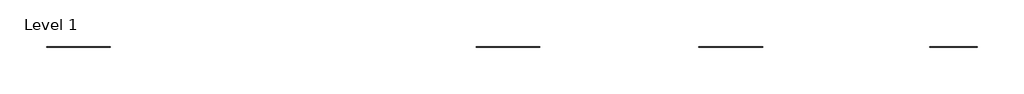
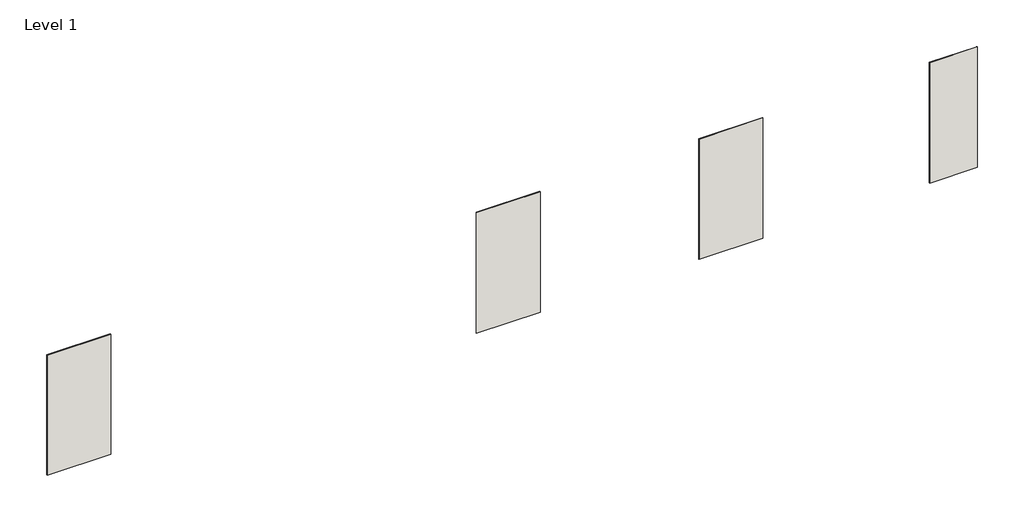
# One storey: 4 walls.
"""IFC4 building model written with IfcOpenShell, lengths in millimetres."""

from ifc_helpers import new_model, si_unit, frame, origin, place, context, project, spatial, polyline, outline, extrude, element, save

model = new_model("IFC4")

# Units and contexts
model_context = context("Model", 3, world=origin())
ifc_project = project(units=[si_unit("LENGTHUNIT", "METRE", prefix="MILLI")], contexts=[model_context])

# Site, building, storey
site = spatial("IfcSite", under=ifc_project)
building = spatial("IfcBuilding", under=site)
storey = spatial("IfcBuildingStorey", under=building, Name="Level 1", Elevation=0.0)

# Walls
placement = place(None, origin())
element("IfcWall", 1, ObjectType="Fermacell - Gypsum Fibreboard 12,5mm 1200x1200 Square Edge", at=placement, inside=storey, context=model_context, shape_type="SweptSolid", body=[
    extrude(outline(polyline([(-682.735738, -1243.4630659), (-1882.735738, -1243.4630659), (-1882.735738, -1230.9630659), (-682.735738, -1230.9630659), (-682.735738, -1243.4630659)])), frame((0.0, 0.0, -6000.0), z_axis=(0.0, 0.0, 1.0), x_axis=(1.0, 0.0, 0.0)), (0.0, 0.0, 1.0), 2400.0),
])
element("IfcWall", 2, ObjectType="Fermacell - Gypsum Fibreboard 12,5mm 600x2400 Square Edge", at=placement, inside=storey, context=model_context, shape_type="SweptSolid", body=[
    extrude(outline(polyline([(-4882.735738, -1243.4630659), (-6082.735738, -1243.4630659), (-6082.735738, -1230.9630659), (-4882.735738, -1230.9630659), (-4882.735738, -1243.4630659)])), frame((0.0, 0.0, -6000.0), z_axis=(0.0, 0.0, 1.0), x_axis=(1.0, 0.0, 0.0)), (0.0, 0.0, 1.0), 2400.0),
])
element("IfcWall", 3, ObjectType="Fermacell - Gypsum Fibreboard 15mm 600x2400 Square Edge", at=placement, inside=storey, context=model_context, shape_type="SweptSolid", body=[
    extrude(outline(polyline([(-12982.735738, -1244.7130659), (-14182.735738, -1244.7130659), (-14182.735738, -1229.7130659), (-12982.735738, -1229.7130659), (-12982.735738, -1244.7130659)])), frame((0.0, 0.0, -6000.0), z_axis=(0.0, 0.0, 1.0), x_axis=(1.0, 0.0, 0.0)), (0.0, 0.0, 1.0), 2400.0),
])
element("IfcWall", 4, ObjectType="Fermacell - Gypsum Fibreboard 10mm 900x1200 Square Edge", at=placement, inside=storey, context=model_context, shape_type="SweptSolid", body=[
    extrude(outline(polyline([(3367.264262, -1242.2130659), (2467.264262, -1242.2130659), (2467.264262, -1232.2130659), (3367.264262, -1232.2130659), (3367.264262, -1242.2130659)])), frame((0.0, 0.0, -6000.0), z_axis=(0.0, 0.0, 1.0), x_axis=(1.0, 0.0, 0.0)), (0.0, 0.0, 1.0), 2400.0),
])

save(model, "model.ifc")
